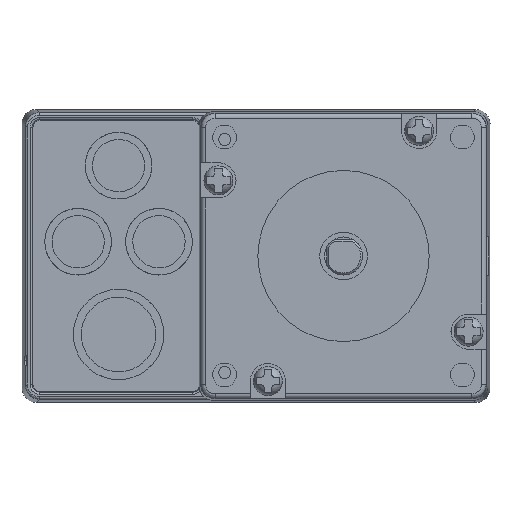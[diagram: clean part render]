
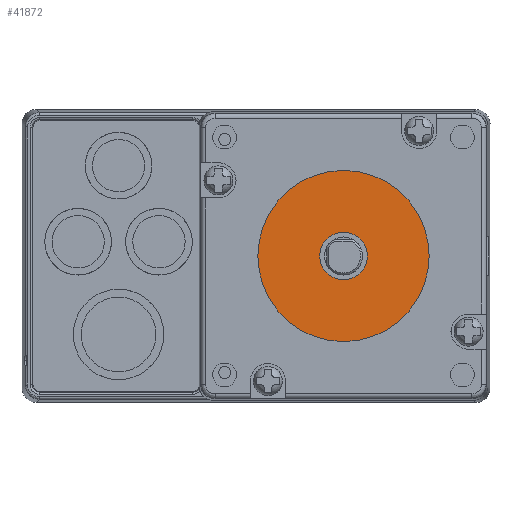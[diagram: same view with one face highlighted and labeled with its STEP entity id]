
A CAD part, left-side view. The second image highlights one B-rep face of the part: STEP entity #41872.
In plain terms, the highlighted planar face has unit normal (-1, 0, 0) as drawn and (0, 0, -1) by its records, which use the part's own axes.
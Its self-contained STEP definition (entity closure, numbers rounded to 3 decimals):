
#490 = CARTESIAN_POINT ( 'NONE',  ( 57.176, 185.692, -213.6 ) ) ;
#14798 = PLANE ( 'NONE',  #96932 ) ;
#22564 = AXIS2_PLACEMENT_3D ( 'NONE', #33714, #93564, #42310 ) ;
#23427 = DIRECTION ( 'NONE',  ( -1., 0., 0. ) ) ;
#25310 = CARTESIAN_POINT ( 'NONE',  ( 67.176, 185.692, -213.6 ) ) ;
#29475 = VERTEX_POINT ( 'NONE', #25310 ) ;
#32237 = EDGE_CURVE ( 'NONE', #29475, #40890, #93354, .T. ) ;
#33714 = CARTESIAN_POINT ( 'NONE',  ( 62.176, 185.692, -213.6 ) ) ;
#36987 = DIRECTION ( 'NONE',  ( 0., 0., -1. ) ) ;
#38509 = DIRECTION ( 'NONE',  ( 0., 0., -1. ) ) ;
#40890 = VERTEX_POINT ( 'NONE', #490 ) ;
#41598 = AXIS2_PLACEMENT_3D ( 'NONE', #89764, #38509, #98325 ) ;
#41872 = ADVANCED_FACE ( 'NONE', ( #76272, #99088 ), #14798, .T. ) ;
#42310 = DIRECTION ( 'NONE',  ( -1., 0., 0. ) ) ;
#46539 = DIRECTION ( 'NONE',  ( 0., 0., -1. ) ) ;
#49612 = CIRCLE ( 'NONE', #58085, 5. ) ;
#57013 = EDGE_LOOP ( 'NONE', ( #107961, #73235 ) ) ;
#57935 = CARTESIAN_POINT ( 'NONE',  ( 80.176, 185.692, -213.6 ) ) ;
#58085 = AXIS2_PLACEMENT_3D ( 'NONE', #97774, #46539, #106320 ) ;
#61431 = AXIS2_PLACEMENT_3D ( 'NONE', #88245, #36987, #96847 ) ;
#63462 = CIRCLE ( 'NONE', #61431, 18. ) ;
#65614 = CIRCLE ( 'NONE', #41598, 18. ) ;
#67770 = ORIENTED_EDGE ( 'NONE', *, *, #101658, .T. ) ;
#71772 = VERTEX_POINT ( 'NONE', #91949 ) ;
#73235 = ORIENTED_EDGE ( 'NONE', *, *, #32237, .F. ) ;
#74640 = DIRECTION ( 'NONE',  ( 0., 0., -1. ) ) ;
#75048 = EDGE_LOOP ( 'NONE', ( #67770, #104114 ) ) ;
#76272 = FACE_OUTER_BOUND ( 'NONE', #75048, .T. ) ;
#76958 = EDGE_CURVE ( 'NONE', #40890, #29475, #49612, .T. ) ;
#88245 = CARTESIAN_POINT ( 'NONE',  ( 62.176, 185.692, -213.6 ) ) ;
#89764 = CARTESIAN_POINT ( 'NONE',  ( 62.176, 185.692, -213.6 ) ) ;
#89801 = VERTEX_POINT ( 'NONE', #57935 ) ;
#91519 = CARTESIAN_POINT ( 'NONE',  ( 62.176, 185.692, -213.6 ) ) ;
#91949 = CARTESIAN_POINT ( 'NONE',  ( 44.176, 185.692, -213.6 ) ) ;
#93354 = CIRCLE ( 'NONE', #22564, 5. ) ;
#93564 = DIRECTION ( 'NONE',  ( 0., 0., -1. ) ) ;
#96847 = DIRECTION ( 'NONE',  ( -1., 0., 0. ) ) ;
#96932 = AXIS2_PLACEMENT_3D ( 'NONE', #91519, #74640, #23427 ) ;
#97774 = CARTESIAN_POINT ( 'NONE',  ( 62.176, 185.692, -213.6 ) ) ;
#98325 = DIRECTION ( 'NONE',  ( -1., 0., 0. ) ) ;
#99088 = FACE_BOUND ( 'NONE', #57013, .T. ) ;
#101658 = EDGE_CURVE ( 'NONE', #71772, #89801, #63462, .T. ) ;
#104114 = ORIENTED_EDGE ( 'NONE', *, *, #106382, .T. ) ;
#106320 = DIRECTION ( 'NONE',  ( -1., 0., 0. ) ) ;
#106382 = EDGE_CURVE ( 'NONE', #89801, #71772, #65614, .T. ) ;
#107961 = ORIENTED_EDGE ( 'NONE', *, *, #76958, .F. ) ;
